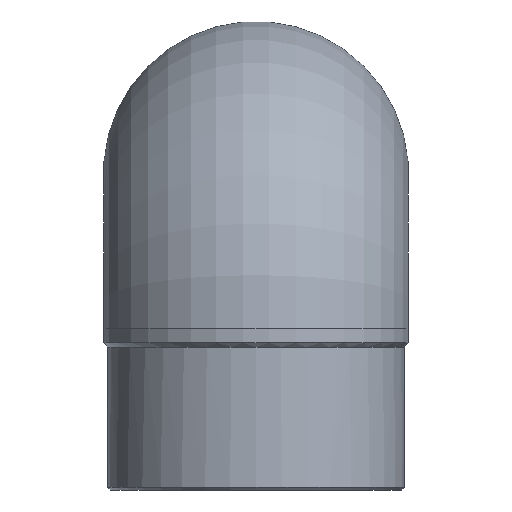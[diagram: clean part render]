
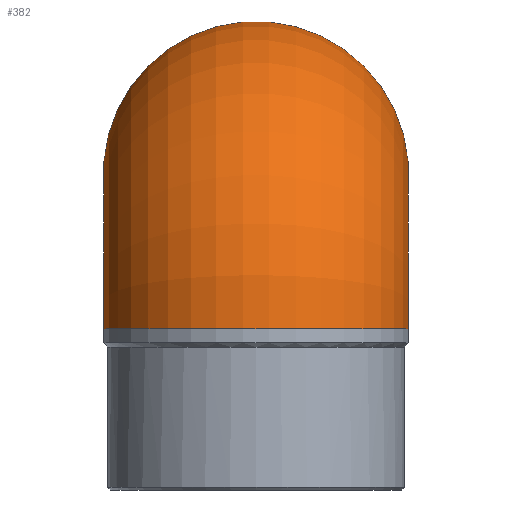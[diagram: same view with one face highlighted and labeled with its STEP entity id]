
A CAD part, left-side view. The second image highlights one B-rep face of the part: STEP entity #382.
In plain terms, the highlighted toroidal (fillet/blend) face has major radius 185 mm and minor radius 182.5 mm.
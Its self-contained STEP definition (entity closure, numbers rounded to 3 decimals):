
#26=TOROIDAL_SURFACE('',#433,185.,182.5);
#119=ORIENTED_EDGE('',*,*,#218,.F.);
#120=ORIENTED_EDGE('',*,*,#201,.F.);
#121=ORIENTED_EDGE('',*,*,#219,.T.);
#122=ORIENTED_EDGE('',*,*,#204,.T.);
#201=EDGE_CURVE('',#253,#251,#283,.F.);
#204=EDGE_CURVE('',#257,#255,#285,.F.);
#218=EDGE_CURVE('',#251,#255,#291,.F.);
#219=EDGE_CURVE('',#253,#257,#292,.F.);
#251=VERTEX_POINT('',#588);
#253=VERTEX_POINT('',#599);
#255=VERTEX_POINT('',#606);
#257=VERTEX_POINT('',#609);
#283=CIRCLE('',#419,182.5);
#285=CIRCLE('',#423,182.5);
#291=CIRCLE('',#434,3.117);
#292=CIRCLE('',#435,3.117);
#315=EDGE_LOOP('',(#119,#120,#121,#122));
#350=FACE_BOUND('',#315,.T.);
#382=ADVANCED_FACE('',(#350),#26,.T.);
#419=AXIS2_PLACEMENT_3D('',#600,#471,#472);
#423=AXIS2_PLACEMENT_3D('',#608,#480,#481);
#433=AXIS2_PLACEMENT_3D('',#677,#501,#502);
#434=AXIS2_PLACEMENT_3D('',#678,#503,#504);
#435=AXIS2_PLACEMENT_3D('',#679,#505,#506);
#471=DIRECTION('',(-1.,0.,0.));
#472=DIRECTION('',(0.,0.,-1.));
#480=DIRECTION('',(0.,0.,-1.));
#481=DIRECTION('',(1.,0.,0.));
#501=DIRECTION('',(0.,1.,0.));
#502=DIRECTION('',(0.,0.,1.));
#503=DIRECTION('',(0.,1.,0.));
#504=DIRECTION('',(0.,0.,1.));
#505=DIRECTION('',(0.,1.,0.));
#506=DIRECTION('',(0.,0.,1.));
#588=CARTESIAN_POINT('',(185.,-15.,196.117));
#599=CARTESIAN_POINT('',(185.,15.,196.117));
#600=CARTESIAN_POINT('',(185.,0.,378.));
#606=CARTESIAN_POINT('',(181.883,-15.,193.));
#608=CARTESIAN_POINT('',(0.,0.,193.));
#609=CARTESIAN_POINT('',(181.883,15.,193.));
#677=CARTESIAN_POINT('',(185.,0.,193.));
#678=CARTESIAN_POINT('',(185.,-15.,193.));
#679=CARTESIAN_POINT('',(185.,15.,193.));
